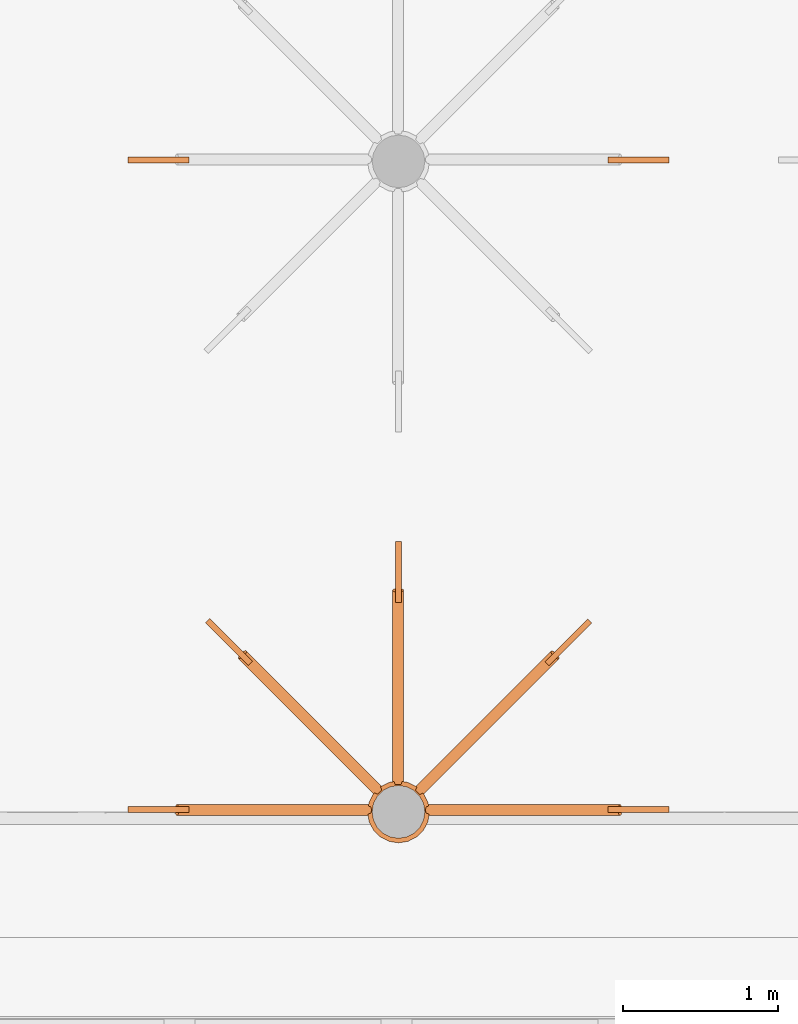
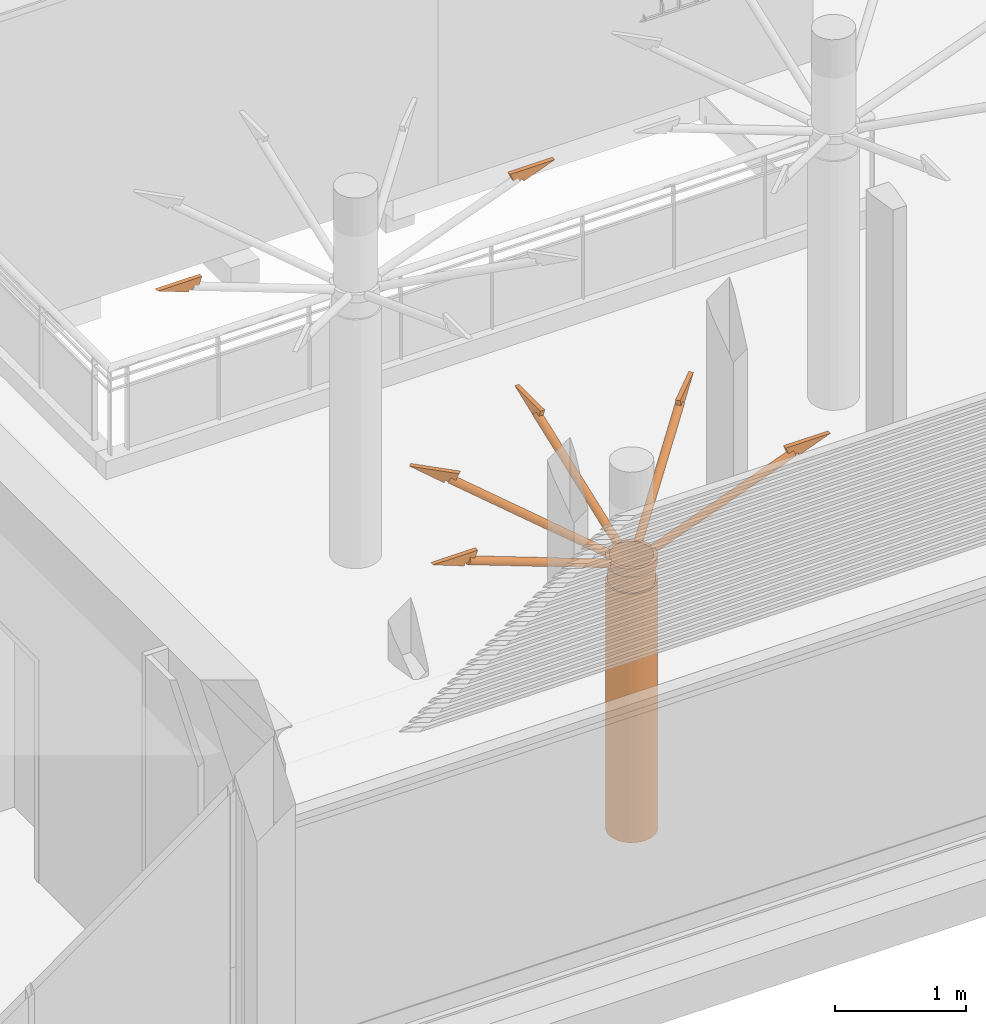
# One storey, part 58 of 65: 1 proxy.
"""IFC4 building model written with IfcOpenShell, lengths in metres."""

from ifc_helpers import new_model, entity, si_unit, converted_unit, derived_unit, direction, frame, origin, place, context, subcontext, project, spatial, indexed_curve, outline, extrude, source, transform, mapped, material, constituent, constituent_set, type_object, type_shapes, element, save


model = new_model("IFC4")

# Units and contexts
model_context = context("Model", 3, precision=1e-05, world=origin(), true_north=direction((6.12303176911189e-17, 1.0)))
body_context = subcontext(model_context, "Body", "Model", "MODEL_VIEW")
ifc_project = project(units=[si_unit("LENGTHUNIT", "METRE"), si_unit("AREAUNIT", "SQUARE_METRE"), si_unit("VOLUMEUNIT", "CUBIC_METRE"), converted_unit("PLANEANGLEUNIT", "DEGREE", entity("IfcRatioMeasure", 0.0174532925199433), si_unit("PLANEANGLEUNIT", "RADIAN"), dimensions=[0, 0, 0, 0, 0, 0, 0]), si_unit("MASSUNIT", "GRAM", prefix="KILO"), derived_unit("MASSDENSITYUNIT", [(si_unit("MASSUNIT", "GRAM", prefix="KILO"), 1), (si_unit("LENGTHUNIT", "METRE"), -3)]), derived_unit("MOMENTOFINERTIAUNIT", [(si_unit("LENGTHUNIT", "METRE"), 4)]), si_unit("TIMEUNIT", "SECOND"), si_unit("FREQUENCYUNIT", "HERTZ"), si_unit("THERMODYNAMICTEMPERATUREUNIT", "DEGREE_CELSIUS"), derived_unit("THERMALTRANSMITTANCEUNIT", [(si_unit("MASSUNIT", "GRAM", prefix="KILO"), 1), (si_unit("THERMODYNAMICTEMPERATUREUNIT", "KELVIN"), -1), (si_unit("TIMEUNIT", "SECOND"), -3)]), derived_unit("VOLUMETRICFLOWRATEUNIT", [(si_unit("LENGTHUNIT", "METRE"), 3), (si_unit("TIMEUNIT", "SECOND"), -1)]), si_unit("ELECTRICCURRENTUNIT", "AMPERE"), si_unit("ELECTRICVOLTAGEUNIT", "VOLT"), si_unit("POWERUNIT", "WATT"), si_unit("FORCEUNIT", "NEWTON", prefix="KILO"), si_unit("ILLUMINANCEUNIT", "LUX"), si_unit("LUMINOUSFLUXUNIT", "LUMEN"), si_unit("LUMINOUSINTENSITYUNIT", "CANDELA"), derived_unit("USERDEFINED", [(si_unit("MASSUNIT", "GRAM", prefix="KILO"), -1), (si_unit("LENGTHUNIT", "METRE"), -2), (si_unit("TIMEUNIT", "SECOND"), 3), (si_unit("LUMINOUSFLUXUNIT", "LUMEN"), 1)]), derived_unit("LINEARVELOCITYUNIT", [(si_unit("LENGTHUNIT", "METRE"), 1), (si_unit("TIMEUNIT", "SECOND"), -1)]), si_unit("PRESSUREUNIT", "PASCAL"), derived_unit("USERDEFINED", [(si_unit("LENGTHUNIT", "METRE"), -2), (si_unit("MASSUNIT", "GRAM", prefix="KILO"), 1), (si_unit("TIMEUNIT", "SECOND"), -2)]), derived_unit("LINEARFORCEUNIT", [(si_unit("MASSUNIT", "GRAM", prefix="KILO"), 1), (si_unit("LENGTHUNIT", "METRE"), 1), (si_unit("TIMEUNIT", "SECOND"), -2), (si_unit("LENGTHUNIT", "METRE"), -1)]), derived_unit("PLANARFORCEUNIT", [(si_unit("MASSUNIT", "GRAM", prefix="KILO"), 1), (si_unit("LENGTHUNIT", "METRE"), 1), (si_unit("TIMEUNIT", "SECOND"), -2), (si_unit("LENGTHUNIT", "METRE"), -2)])], contexts=[model_context])

# Site, building, storey
site_placement = place(None, origin())
site = spatial("IfcSite", under=ifc_project, at=site_placement, Name="Default", CompositionType="ELEMENT")
building_placement = place(site_placement, origin())
building = spatial("IfcBuilding", under=site, at=building_placement, Name="HOTEL CONSULAIRE BOULOGNE SUR MER", CompositionType="ELEMENT")
storey_placement = place(building_placement, origin())
storey = spatial("IfcBuildingStorey", under=building, at=storey_placement, Name="Niveau 0", CompositionType="ELEMENT", Elevation=1.31981936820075e-13)

# Proxy
ifc_material_1 = material(Name="Bronze", Category="Métal")
ifc_constituent_1 = constituent(ifc_material_1, Name="Bronze", Category="Matériaux")
ifc_material_2 = material(Name="Acier, carbone", Category="Métal")
ifc_constituent_2 = constituent(ifc_material_2, Name="Acier, carbone", Category="Matériaux")
ifc_constituent_set = constituent_set(constituents=[ifc_constituent_1, ifc_constituent_2], Name="MaterialConstituentSet")
building_element_proxy_type = type_object("IfcBuildingElementProxyType", Name="Modèles génériques 5:Modèles génériques 1", PredefinedType="NOTDEFINED", material=ifc_material_1)
shared_shape = source(origin(), body_context, "Body", "SweptSolid", [
    extrude(outline(indexed_curve([(-0.280255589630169, -0.0435504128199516), (0.0129489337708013, -0.0435504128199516), (0.012948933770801, -0.0185504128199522), (0.041089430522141, -0.0183242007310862), (0.0410894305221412, 0.0134495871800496), (0.0860894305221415, 0.0134495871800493), (0.086089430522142, 0.097076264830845), (-0.280255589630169, -0.0435504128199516)], self_intersect=False)), frame((3.21418736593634, 0.196492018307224, 2.99602341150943), z_axis=(0.0, 1.0, 0.0), x_axis=(-0.933580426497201, 0.0, -0.358367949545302)), (0.0, 0.0, 1.0), 0.0378195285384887),
    extrude(outline(indexed_curve([(-0.277248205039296, -0.059776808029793), (0.115160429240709, -0.059776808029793), (0.0851913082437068, 0.0182954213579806), (0.0431801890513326, 0.00216886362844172), (0.0317934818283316, 0.0318322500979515), (0.00544099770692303, 0.02195878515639), (-0.00351820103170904, 0.045298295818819), (-0.277248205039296, -0.059776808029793)], self_intersect=False)), frame((0.277248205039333, 0.196492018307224, 2.99602341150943), z_axis=(0.0, 1.0, 0.0), x_axis=(1.0, 0.0, 0.0)), (0.0, 0.0, 1.0), 0.0378195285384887),
    extrude(outline(indexed_curve([(-0.280255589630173, -0.0435504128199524), (0.0129489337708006, -0.0435504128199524), (0.0129489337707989, -0.0185504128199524), (0.0410894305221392, -0.018324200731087), (0.0410894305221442, 0.0134495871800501), (0.0860894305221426, 0.0134495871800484), (0.0860894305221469, 0.0970762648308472), (-0.280255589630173, -0.0435504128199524)], self_intersect=False)), frame((2.79858537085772, 1.22399802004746, 2.99602341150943), z_axis=(-0.707106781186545, 0.70710678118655, 0.0), x_axis=(-0.6601410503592, -0.660141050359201, -0.3583679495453)), (0.0, 0.0, 1.0), 0.03781952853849),
    extrude(outline(indexed_curve([(0.0349999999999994, 1.26052501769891e-15), (0.03328697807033, 0.0108155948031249), (0.0283155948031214, 0.0205724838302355), (0.0205724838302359, 0.0283155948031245), (0.0108155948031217, 0.0332869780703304), (-1.00451293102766e-15, 0.0350000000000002), (-0.0108155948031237, 0.0332869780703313), (-0.0205724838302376, 0.0283155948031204), (-0.0283155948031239, 0.0205724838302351), (-0.0332869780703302, 0.0108155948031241), (-0.0350000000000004, -1.26052501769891e-15), (-0.0332869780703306, -0.0108155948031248), (-0.028315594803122, -0.0205724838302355), (-0.0205724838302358, -0.0283155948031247), (-0.0108155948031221, -0.0332869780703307), (1.138813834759e-15, -0.0350000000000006), (0.0108155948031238, -0.0332869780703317), (0.0205724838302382, -0.0283155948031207), (0.028315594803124, -0.0205724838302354), (0.0332869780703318, -0.0108155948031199), (0.0349999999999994, 1.26052501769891e-15)], self_intersect=False)), frame((1.87727904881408, 0.334051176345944, 2.51439151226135), z_axis=(0.662156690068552, 0.662156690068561, 0.350851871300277), x_axis=(0.248089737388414, 0.248089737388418, -0.936430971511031)), (0.0, 0.0, 1.0), 1.32737404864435),
    extrude(outline(indexed_curve([(-0.277248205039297, -0.0597768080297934), (0.115160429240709, -0.0597768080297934), (0.0851913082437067, 0.0182954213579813), (0.0431801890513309, 0.00216886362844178), (0.031793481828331, 0.0318322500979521), (0.00544099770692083, 0.0219587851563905), (-0.00351820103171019, 0.045298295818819), (-0.277248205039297, -0.0597768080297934)], self_intersect=False)), frame((1.72741016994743, 1.66860652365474, 2.99602341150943), z_axis=(1.0, 0.0, 0.0), x_axis=(0.0, -1.0, 0.0)), (0.0, 0.0, 1.0), 0.0378195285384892),
    extrude(outline(indexed_curve([(0.0349999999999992, 2.03833563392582e-16), (0.0332869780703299, 0.0108155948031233), (0.0283155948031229, 0.0205724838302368), (0.0205724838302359, 0.0283155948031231), (0.0108155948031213, 0.0332869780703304), (-4.40137232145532e-16, 0.0349999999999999), (-0.0108155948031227, 0.0332869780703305), (-0.0205724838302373, 0.0283155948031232), (-0.0283155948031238, 0.0205724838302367), (-0.0332869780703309, 0.0108155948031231), (-0.0349999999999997, 6.68832189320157e-17), (-0.0332869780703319, -0.010815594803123), (-0.0283155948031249, -0.0205724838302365), (-0.0205724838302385, -0.0283155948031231), (-0.0108155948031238, -0.0332869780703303), (-1.58792340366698e-15, -0.035), (0.0108155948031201, -0.0332869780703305), (0.0205724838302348, -0.0283155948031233), (0.0283155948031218, -0.0205724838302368), (0.0332869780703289, -0.0108155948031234), (0.0349999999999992, 2.03833563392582e-16)], self_intersect=False)), frame((1.74305519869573, 0.387857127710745, 2.51439151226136), z_axis=(0.0, 0.936430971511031, 0.350851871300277), x_axis=(0.0, 0.350851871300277, -0.936430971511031)), (0.0, 0.0, 1.0), 1.32737404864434),
    extrude(outline(indexed_curve([(-0.277248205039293, -0.059776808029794), (0.115160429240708, -0.059776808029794), (0.0851913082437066, 0.0182954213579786), (0.0431801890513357, 0.00216886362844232), (0.0317934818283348, 0.0318322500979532), (0.00544099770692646, 0.0219587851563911), (-0.00351820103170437, 0.0452982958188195), (-0.277248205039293, -0.059776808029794)], self_intersect=False)), frame((0.694971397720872, 1.22611946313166, 2.99602341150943), z_axis=(0.707106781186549, 0.707106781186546, 0.0), x_axis=(0.707106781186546, -0.707106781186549, 0.0)), (0.0, 0.0, 1.0), 0.0378195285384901),
    extrude(outline(indexed_curve([(0.0349999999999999, -1.22011148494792e-15), (0.0332869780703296, 0.0108155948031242), (0.0283155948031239, 0.0205724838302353), (0.0205724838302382, 0.0283155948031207), (0.0108155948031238, 0.0332869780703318), (1.10180177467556e-15, 0.0350000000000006), (-0.0108155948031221, 0.0332869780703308), (-0.0205724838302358, 0.0283155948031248), (-0.0283155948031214, 0.0205724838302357), (-0.03328697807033, 0.0108155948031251), (-0.0349999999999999, 1.41151670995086e-15), (-0.0332869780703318, -0.01081559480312), (-0.0283155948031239, -0.0205724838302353), (-0.0205724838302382, -0.0283155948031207), (-0.0108155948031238, -0.0332869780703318), (-1.10180177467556e-15, -0.0350000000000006), (0.0108155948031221, -0.0332869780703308), (0.0205724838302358, -0.0283155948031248), (0.0283155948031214, -0.0205724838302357), (0.03328697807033, -0.0108155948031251), (0.0349999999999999, -1.22011148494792e-15)], self_intersect=False)), frame((1.61627771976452, 0.336172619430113, 2.51439151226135), z_axis=(-0.662156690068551, 0.662156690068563, 0.350851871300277), x_axis=(-0.248089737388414, 0.248089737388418, -0.936430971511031)), (0.0, 0.0, 1.0), 1.32737404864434),
    extrude(outline(indexed_curve([(-0.280255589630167, -0.0435504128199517), (0.0129489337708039, -0.0435504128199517), (0.0129489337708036, -0.0185504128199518), (0.0410894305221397, -0.0183242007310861), (0.0410894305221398, 0.013449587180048), (0.0860894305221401, 0.0134495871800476), (0.0860894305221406, 0.0970762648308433), (-0.280255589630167, -0.0435504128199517)], self_intersect=False)), frame((3.21418736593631, 4.38996254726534, 2.99602341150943), z_axis=(0.0, 1.0, 0.0), x_axis=(-0.933580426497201, 0.0, -0.358367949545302)), (0.0, 0.0, 1.0), 0.0378195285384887),
    extrude(outline(indexed_curve([(0.0349999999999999, -4.16541532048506e-17), (0.0332869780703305, 0.0108155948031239), (0.0283155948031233, 0.0205724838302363), (0.0205724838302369, 0.0283155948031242), (0.0108155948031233, 0.0332869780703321), (-5.83659163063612e-18, 0.0350000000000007), (-0.0108155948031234, 0.0332869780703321), (-0.0205724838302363, 0.0283155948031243), (-0.0283155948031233, 0.0205724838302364), (-0.0332869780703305, 0.0108155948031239), (-0.0349999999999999, 4.16541532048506e-17), (-0.0332869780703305, -0.0108155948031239), (-0.0283155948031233, -0.0205724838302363), (-0.0205724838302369, -0.0283155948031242), (-0.0108155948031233, -0.0332869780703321), (5.83659163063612e-18, -0.0350000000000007), (0.0108155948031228, -0.0332869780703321), (0.0205724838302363, -0.0283155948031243), (0.0283155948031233, -0.0205724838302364), (0.0332869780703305, -0.0108155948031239), (0.0349999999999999, -4.16541532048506e-17)], self_intersect=False)), frame((1.93343796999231, 0.212137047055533, 2.51439151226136), z_axis=(0.936430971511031, 0.0, 0.350851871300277), x_axis=(0.350851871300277, 0.0, -0.936430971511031)), (0.0, 0.0, 1.0), 1.32737404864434),
    extrude(outline(indexed_curve([(-0.277248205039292, -0.059776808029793), (0.115160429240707, -0.059776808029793), (0.0851913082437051, 0.0182954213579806), (0.0431801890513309, 0.00216886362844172), (0.0317934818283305, 0.0318322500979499), (0.00544099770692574, 0.0219587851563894), (-0.00351820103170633, 0.0452982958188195), (-0.277248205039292, -0.059776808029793)], self_intersect=False)), frame((0.277248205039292, 4.38996254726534, 2.99602341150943), z_axis=(0.0, 1.0, 0.0), x_axis=(1.0, 0.0, 0.0)), (0.0, 0.0, 1.0), 0.0378195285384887),
    extrude(outline(indexed_curve([(0.0349999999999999, 4.16541532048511e-17), (0.0332869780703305, 0.0108155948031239), (0.0283155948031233, 0.0205724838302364), (0.0205724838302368, 0.0283155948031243), (0.0108155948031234, 0.0332869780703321), (5.33273364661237e-17, 0.0350000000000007), (-0.0108155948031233, 0.0332869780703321), (-0.0205724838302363, 0.0283155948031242), (-0.0283155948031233, 0.0205724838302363), (-0.0332869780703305, 0.0108155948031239), (-0.0349999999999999, -4.16541532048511e-17), (-0.0332869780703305, -0.0108155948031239), (-0.0283155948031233, -0.0205724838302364), (-0.0205724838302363, -0.0283155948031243), (-0.0108155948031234, -0.0332869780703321), (4.16541532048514e-17, -0.0350000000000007), (0.0108155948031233, -0.0332869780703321), (0.0205724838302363, -0.0283155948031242), (0.0283155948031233, -0.0205724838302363), (0.0332869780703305, -0.0108155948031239), (0.0349999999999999, 4.16541532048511e-17)], self_intersect=False)), frame((1.55799760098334, 0.212137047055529, 2.51439151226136), z_axis=(-0.936430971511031, 0.0, 0.350851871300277), x_axis=(-0.350851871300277, 0.0, -0.936430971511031)), (0.0, 0.0, 1.0), 1.32737404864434),
    extrude(outline(indexed_curve([(0.199999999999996, 0.0), (0.190211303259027, 0.0618033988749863), (0.161803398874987, 0.11755705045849), (0.117557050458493, 0.161803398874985), (0.0618033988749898, 0.190211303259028), (2.16573425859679e-15, 0.199999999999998), (-0.0618033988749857, 0.190211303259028), (-0.11755705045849, 0.16180339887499), (-0.161803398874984, 0.117557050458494), (-0.190211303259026, 0.0618033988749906), (-0.199999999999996, 4.33146851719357e-15), (-0.190211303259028, -0.0618033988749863), (-0.161803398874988, -0.11755705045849), (-0.117557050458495, -0.161803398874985), (-0.0618033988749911, -0.190211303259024), (-2.97788460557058e-15, -0.199999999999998), (0.0618033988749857, -0.190211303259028), (0.11755705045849, -0.161803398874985), (0.161803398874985, -0.117557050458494), (0.190211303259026, -0.0618033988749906), (0.199999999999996, 0.0)], self_intersect=False), holes=[indexed_curve([(-0.169999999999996, 0.0), (-0.161679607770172, 0.0525328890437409), (-0.137532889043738, 0.0999234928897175), (-0.0999234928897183, 0.137532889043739), (-0.0525328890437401, 0.161679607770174), (-5.41433564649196e-16, 0.169999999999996), (0.0525328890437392, 0.161679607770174), (0.0999234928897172, 0.137532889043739), (0.137532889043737, 0.0999234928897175), (0.161679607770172, 0.0525328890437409), (0.169999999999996, 0.0), (0.161679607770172, -0.0525328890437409), (0.137532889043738, -0.0999234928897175), (0.0999234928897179, -0.137532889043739), (0.0525328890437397, -0.161679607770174), (0.0, -0.169999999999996), (-0.0525328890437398, -0.161679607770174), (-0.0999234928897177, -0.137532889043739), (-0.137532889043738, -0.0999234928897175), (-0.161679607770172, -0.0525328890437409), (-0.169999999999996, 0.0)], self_intersect=False)]), frame((1.74571778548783, 0.200137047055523, 2.46815840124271)), (0.0, 0.0, 1.0), 0.073394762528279),
    extrude(outline(indexed_curve([(-0.184999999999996, 0.0), (-0.175945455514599, -0.0571681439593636), (-0.149668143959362, -0.108740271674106), (-0.108740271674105, -0.14966814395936), (-0.0571681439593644, -0.175945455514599), (-8.12150346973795e-16, -0.184999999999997), (0.0571681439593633, -0.175945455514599), (0.108740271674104, -0.149668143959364), (0.149668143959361, -0.108740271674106), (0.175945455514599, -0.0571681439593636), (0.184999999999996, 0.0), (0.175945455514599, 0.0571681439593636), (0.149668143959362, 0.108740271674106), (0.108740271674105, 0.14966814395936), (0.057168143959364, 0.175945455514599), (0.0, 0.184999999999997), (-0.0571681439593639, 0.175945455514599), (-0.108740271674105, 0.14966814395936), (-0.149668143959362, 0.108740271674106), (-0.175945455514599, 0.0571681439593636), (-0.184999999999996, 0.0)], self_intersect=False), holes=[indexed_curve([(0.169999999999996, 0.0), (0.161679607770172, -0.0525328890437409), (0.137532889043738, -0.0999234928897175), (0.0999234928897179, -0.137532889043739), (0.0525328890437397, -0.161679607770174), (0.0, -0.169999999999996), (-0.0525328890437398, -0.161679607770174), (-0.0999234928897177, -0.137532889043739), (-0.137532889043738, -0.0999234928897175), (-0.161679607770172, -0.0525328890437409), (-0.169999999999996, 0.0), (-0.161679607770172, 0.0525328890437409), (-0.137532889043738, 0.0999234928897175), (-0.0999234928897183, 0.137532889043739), (-0.0525328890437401, 0.161679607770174), (-5.41433564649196e-16, 0.169999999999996), (0.0525328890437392, 0.161679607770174), (0.0999234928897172, 0.137532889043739), (0.137532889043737, 0.0999234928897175), (0.161679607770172, 0.0525328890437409), (0.169999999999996, 0.0)], self_intersect=False)]), frame((1.74571778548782, 0.200137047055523, 2.31091744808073)), (0.0, 0.0, 1.0), 0.15724095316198),
    extrude(outline(indexed_curve([(0.199999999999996, 0.0), (0.190211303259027, 0.0618033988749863), (0.161803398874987, 0.11755705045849), (0.117557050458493, 0.161803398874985), (0.0618033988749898, 0.190211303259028), (2.16573425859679e-15, 0.199999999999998), (-0.0618033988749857, 0.190211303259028), (-0.11755705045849, 0.16180339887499), (-0.161803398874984, 0.117557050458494), (-0.190211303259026, 0.0618033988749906), (-0.199999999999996, 4.33146851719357e-15), (-0.190211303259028, -0.0618033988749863), (-0.161803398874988, -0.11755705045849), (-0.117557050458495, -0.161803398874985), (-0.0618033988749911, -0.190211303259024), (-2.97788460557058e-15, -0.199999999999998), (0.0618033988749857, -0.190211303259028), (0.11755705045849, -0.161803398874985), (0.161803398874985, -0.117557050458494), (0.190211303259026, -0.0618033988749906), (0.199999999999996, 0.0)], self_intersect=False), holes=[indexed_curve([(-0.169999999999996, 0.0), (-0.161679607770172, 0.0525328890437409), (-0.137532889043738, 0.0999234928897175), (-0.0999234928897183, 0.137532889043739), (-0.0525328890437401, 0.161679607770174), (-5.41433564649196e-16, 0.169999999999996), (0.0525328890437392, 0.161679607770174), (0.0999234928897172, 0.137532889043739), (0.137532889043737, 0.0999234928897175), (0.161679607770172, 0.0525328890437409), (0.169999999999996, 0.0), (0.161679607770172, -0.0525328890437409), (0.137532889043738, -0.0999234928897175), (0.0999234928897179, -0.137532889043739), (0.0525328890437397, -0.161679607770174), (0.0, -0.169999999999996), (-0.0525328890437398, -0.161679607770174), (-0.0999234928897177, -0.137532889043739), (-0.137532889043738, -0.0999234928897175), (-0.161679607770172, -0.0525328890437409), (-0.169999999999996, 0.0)], self_intersect=False)]), frame((1.74571778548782, 0.200137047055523, 0.0)), (0.0, 0.0, 1.0), 2.31091744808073),
])
type_shapes(building_element_proxy_type, [shared_shape])
proxy_placement = place(storey_placement, frame((-2.97454101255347, -28.4160468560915, 0.0)))
element("IfcBuildingElementProxy", 1, at=proxy_placement, inside=storey, type_object=building_element_proxy_type, material=ifc_constituent_set, Name="Modèles génériques 5:Modèles génériques 1", ObjectType="Modèles génériques 5:Modèles génériques 1", PredefinedType="NOTDEFINED", context=body_context, shape_type="MappedRepresentation", body=[
    mapped(shared_shape, transform((0.0, 0.0, 0.0), scale=1.0)),
])

save(model, "model.ifc")
